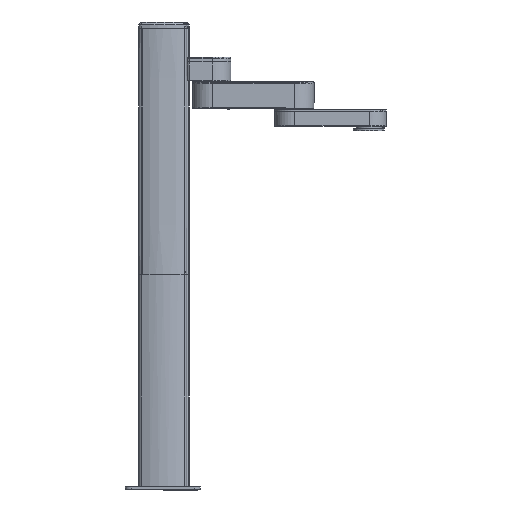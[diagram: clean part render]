
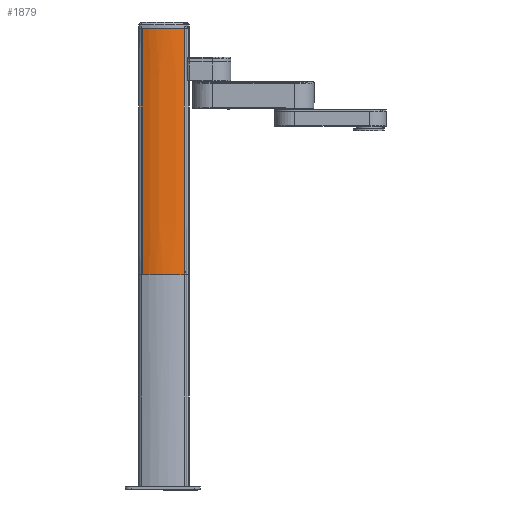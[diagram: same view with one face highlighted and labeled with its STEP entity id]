
A CAD part, front view. The second image highlights one B-rep face of the part: STEP entity #1879.
In plain terms, the highlighted face is a extrusion surface.
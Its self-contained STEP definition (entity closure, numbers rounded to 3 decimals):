
#1813=CARTESIAN_POINT('Vertex',(0.,63.,54.397)) ;
#1816=CARTESIAN_POINT('Line Origine',(-330.,63.,54.397)) ;
#1820=CARTESIAN_POINT('Vertex',(-660.,63.,54.397)) ;
#1839=CARTESIAN_POINT('Control Point',(0.,60.853,-59.231)) ;
#1840=CARTESIAN_POINT('Control Point',(0.,70.755,-38.024)) ;
#1841=CARTESIAN_POINT('Control Point',(0.,76.227,-14.747)) ;
#1842=CARTESIAN_POINT('Control Point',(0.,76.683,9.364)) ;
#1843=CARTESIAN_POINT('Control Point',(0.,72.094,32.831)) ;
#1844=CARTESIAN_POINT('Control Point',(0.,63.,54.397)) ;
#1849=CARTESIAN_POINT('Control Point',(0.,60.853,-59.231)) ;
#1850=CARTESIAN_POINT('Control Point',(0.,70.755,-38.024)) ;
#1851=CARTESIAN_POINT('Control Point',(0.,76.227,-14.747)) ;
#1852=CARTESIAN_POINT('Control Point',(0.,76.683,9.364)) ;
#1853=CARTESIAN_POINT('Control Point',(0.,72.094,32.831)) ;
#1854=CARTESIAN_POINT('Control Point',(0.,63.,54.397)) ;
#1855=CARTESIAN_POINT('Vertex',(0.,60.853,-59.231)) ;
#1858=CARTESIAN_POINT('Line Origine',(-330.,60.853,-59.231)) ;
#1862=CARTESIAN_POINT('Vertex',(-660.,60.853,-59.231)) ;
#1866=CARTESIAN_POINT('Control Point',(-660.,60.853,-59.231)) ;
#1867=CARTESIAN_POINT('Control Point',(-660.,70.755,-38.024)) ;
#1868=CARTESIAN_POINT('Control Point',(-660.,76.227,-14.747)) ;
#1869=CARTESIAN_POINT('Control Point',(-660.,76.683,9.364)) ;
#1870=CARTESIAN_POINT('Control Point',(-660.,72.094,32.831)) ;
#1871=CARTESIAN_POINT('Control Point',(-660.,63.,54.397)) ;
#1817=DIRECTION('Vector Direction',(-1.,0.,0.)) ;
#1845=DIRECTION('Vector Direction',(-1.,0.,0.)) ;
#1859=DIRECTION('Vector Direction',(-1.,0.,0.)) ;
#1874=ORIENTED_EDGE('',*,*,#1822,.F.) ;
#1875=ORIENTED_EDGE('',*,*,#1857,.F.) ;
#1876=ORIENTED_EDGE('',*,*,#1864,.T.) ;
#1877=ORIENTED_EDGE('',*,*,#1872,.F.) ;
#1818=VECTOR('Line Direction',#1817,1.) ;
#1846=VECTOR('Extrusion Surface Vector',#1845,1.) ;
#1860=VECTOR('Line Direction',#1859,1.) ;
#1879=ADVANCED_FACE('\X2\96F64EF651E04F554F53\X0\',(#1878),#1847,.F.) ;
#1838=B_SPLINE_CURVE_WITH_KNOTS('',5,(#1839,#1840,#1841,#1842,#1843,#1844),.UNSPECIFIED.,.F.,.U.,(6,6),(0.,118.748),.UNSPECIFIED.) ;
#1848=B_SPLINE_CURVE_WITH_KNOTS('',5,(#1849,#1850,#1851,#1852,#1853,#1854),.UNSPECIFIED.,.F.,.U.,(6,6),(38.898,155.923),.UNSPECIFIED.) ;
#1865=B_SPLINE_CURVE_WITH_KNOTS('',5,(#1866,#1867,#1868,#1869,#1870,#1871),.UNSPECIFIED.,.F.,.U.,(6,6),(38.898,155.923),.UNSPECIFIED.) ;
#1822=EDGE_CURVE('',#1814,#1821,#1819,.T.) ;
#1857=EDGE_CURVE('',#1856,#1814,#1848,.T.) ;
#1864=EDGE_CURVE('',#1856,#1863,#1861,.T.) ;
#1872=EDGE_CURVE('',#1821,#1863,#1865,.F.) ;
#1873=EDGE_LOOP('',(#1874,#1875,#1876,#1877)) ;
#1878=FACE_OUTER_BOUND('',#1873,.T.) ;
#1819=LINE('Line',#1816,#1818) ;
#1861=LINE('Line',#1858,#1860) ;
#1847=SURFACE_OF_LINEAR_EXTRUSION('generated tabulated cylinder',#1838,#1846) ;
#1814=VERTEX_POINT('',#1813) ;
#1821=VERTEX_POINT('',#1820) ;
#1856=VERTEX_POINT('',#1855) ;
#1863=VERTEX_POINT('',#1862) ;
